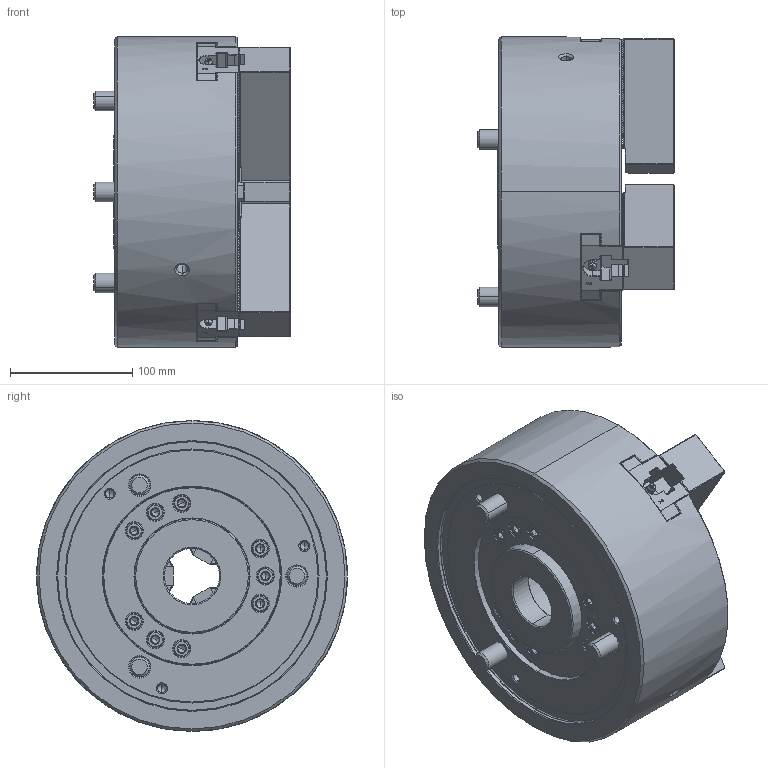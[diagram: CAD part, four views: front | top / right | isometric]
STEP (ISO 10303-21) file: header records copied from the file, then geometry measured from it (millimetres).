
FILE_DESCRIPTION (( 'STEP AP203' ), '1' );
FILE_NAME ('B-210M_HOL.STEP', '2025-09-03T09:01:17', ( '' ), ( '' ), 'SwSTEP 2.0', 'SolidWorks 2022', '' );
FILE_SCHEMA (( 'CONFIG_CONTROL_DESIGN' ));
Length unit declared in the file: millimetre
Products named in the file (9): B-210M_HOL; Copy of DEV-B-210M-Bアナツキボタン M6x10^DEV-B-210M-クミタテ; Copy of DEV-B-210M-ドローナット^DEV-B-210M-クミタテ_ねじ切りなし; Part9^DEV-B-210M-クミタテ; Copy of DEV-B-210M-Bアナツキ M16x100^DEV-B-210M-クミタテ; Copy of DEV-B-210M-カバー^DEV-B-210M-クミタテ; Copy of DEV-B-210M-ソフトジョー^DEV-B-210M-クミタテ_デフォルト; Copy of DEV-B-210M-Tナット^DEV-B-210M-クミタテ; Copy of DEV-B-210M-Bアナツキ M12x30^DEV-B-210M-クミタテ
Assembly tree (21 placements, depth 2):
  B-210M_HOL
    Copy of DEV-B-210M-Bアナツキ M16x100^DEV-B-210M-クミタテ  x3
    Copy of DEV-B-210M-Bアナツキ M12x30^DEV-B-210M-クミタテ  x6
    Copy of DEV-B-210M-Bアナツキボタン M6x10^DEV-B-210M-クミタテ  x3
    Copy of DEV-B-210M-ドローナット^DEV-B-210M-クミタテ_ねじ切りなし
    Copy of DEV-B-210M-カバー^DEV-B-210M-クミタテ
    Copy of DEV-B-210M-ソフトジョー^DEV-B-210M-クミタテ_デフォルト  x3
    Copy of DEV-B-210M-Tナット^DEV-B-210M-クミタテ  x3
    Part9^DEV-B-210M-クミタテ
Bounding box: 160.2 x 254 x 254 mm (x, y, z)
Volume: 4893585.6 mm3; surface area: 457796.8 mm2
Topology: 21 solids, 27 shells, 4503 faces, 12643 edges, 8245 vertices
Faces by surface type: plane 2836, cylinder 1099, cone 380, bspline 119, torus 62, sphere 7
Entity records: 99312 total; most frequent: CARTESIAN_POINT 25199, ORIENTED_EDGE 16210, DIRECTION 13681, EDGE_CURVE 8105, VECTOR 6031, LINE 6031, VERTEX_POINT 5293, AXIS2_PLACEMENT_3D 3825
